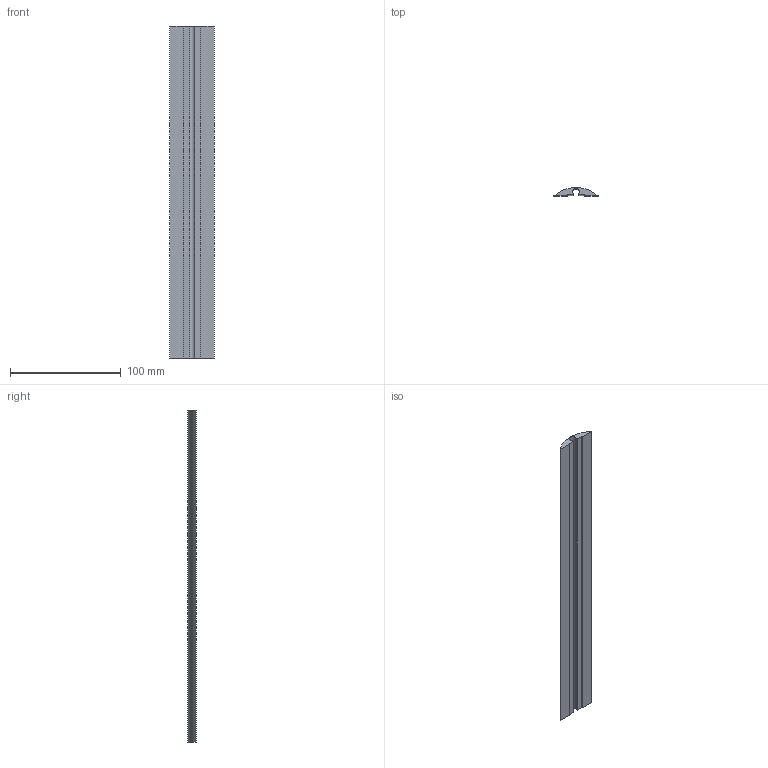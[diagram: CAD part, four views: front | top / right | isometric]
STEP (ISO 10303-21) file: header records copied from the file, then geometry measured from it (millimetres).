
FILE_DESCRIPTION(/* description */ (''),/* implementation_level */ '2;1');
FILE_NAME(/* name */ 'D:/3D/projects/floor_cable_channel/ethernet_cable_cover.step',/* time_stamp */ '2021-07-28T22:27:55+01:00',/* author */ (''),/* organization */ (''),/* preprocessor_version */ 'ST-DEVELOPER v18.1',/* originating_system */ 'Autodesk Translation Framework v10.9.0.1377',/* authorisation */ '');
FILE_SCHEMA (('AUTOMOTIVE_DESIGN { 1 0 10303 214 3 1 1 }'));
Length unit declared in the file: millimetre
Products named in the file (1): ethernet_cable_cover
Bounding box: 40 x 7.5 x 300 mm (x, y, z)
Volume: 49602.6 mm3; surface area: 29121.1 mm2
Topology: 1 solids, 1 shells, 12 faces, 30 edges, 20 vertices
Faces by surface type: plane 10, cylinder 2
Entity records: 391 total; most frequent: CARTESIAN_POINT 63, ORIENTED_EDGE 60, DIRECTION 60, EDGE_CURVE 30, LINE 26, VECTOR 26, VERTEX_POINT 20, AXIS2_PLACEMENT_3D 17
